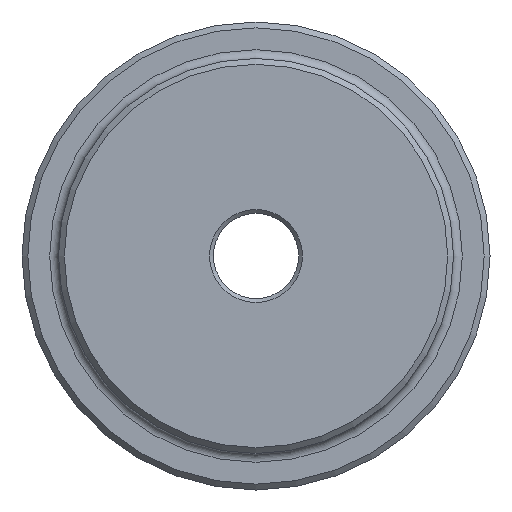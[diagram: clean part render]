
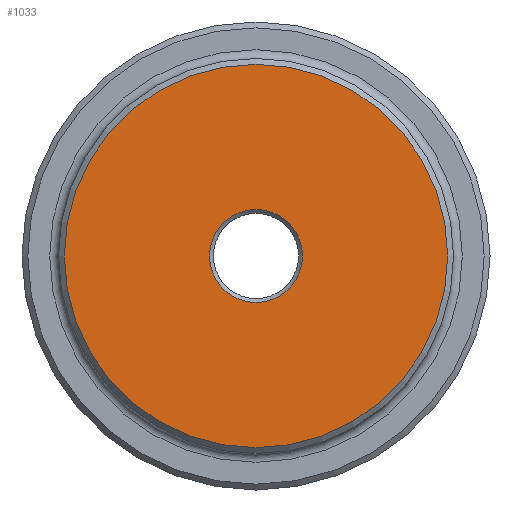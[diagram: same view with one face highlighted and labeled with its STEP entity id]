
A CAD part, left-side view. The second image highlights one B-rep face of the part: STEP entity #1033.
In plain terms, the highlighted planar face has unit normal (-1, 0, 0).
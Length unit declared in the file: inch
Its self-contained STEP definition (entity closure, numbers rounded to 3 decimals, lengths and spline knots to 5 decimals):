
#25 = VERTEX_POINT ( 'NONE', #2278 ) ;
#26 = CIRCLE ( 'NONE', #122, 0.47765 ) ;
#46 = ORIENTED_EDGE ( 'NONE', *, *, #1827, .T. ) ;
#70 = DIRECTION ( 'NONE',  ( -1., 0., 0. ) ) ;
#96 = CARTESIAN_POINT ( 'NONE',  ( 0., 0., -0.47765 ) ) ;
#122 = AXIS2_PLACEMENT_3D ( 'NONE', #336, #806, #1373 ) ;
#269 = AXIS2_PLACEMENT_3D ( 'NONE', #1073, #699, #1748 ) ;
#310 = EDGE_CURVE ( 'NONE', #25, #25, #1693, .T. ) ;
#336 = CARTESIAN_POINT ( 'NONE',  ( 0., 0., 0. ) ) ;
#378 = AXIS2_PLACEMENT_3D ( 'NONE', #1128, #70, #2220 ) ;
#550 = PLANE ( 'NONE',  #269 ) ;
#699 = DIRECTION ( 'NONE',  ( 1., 0., 0. ) ) ;
#734 = VERTEX_POINT ( 'NONE', #96 ) ;
#806 = DIRECTION ( 'NONE',  ( 1., 0., 0. ) ) ;
#1033 = ADVANCED_FACE ( 'NONE', ( #2162, #1597 ), #550, .F. ) ;
#1073 = CARTESIAN_POINT ( 'NONE',  ( 0., 0., 0. ) ) ;
#1128 = CARTESIAN_POINT ( 'NONE',  ( 0., 0., 0. ) ) ;
#1373 = DIRECTION ( 'NONE',  ( 0., 0., -1. ) ) ;
#1499 = EDGE_LOOP ( 'NONE', ( #1726 ) ) ;
#1597 = FACE_OUTER_BOUND ( 'NONE', #1499, .T. ) ;
#1693 = CIRCLE ( 'NONE', #378, 1.97 ) ;
#1726 = ORIENTED_EDGE ( 'NONE', *, *, #310, .T. ) ;
#1748 = DIRECTION ( 'NONE',  ( 0., 0., -1. ) ) ;
#1827 = EDGE_CURVE ( 'NONE', #734, #734, #26, .T. ) ;
#2150 = EDGE_LOOP ( 'NONE', ( #46 ) ) ;
#2162 = FACE_BOUND ( 'NONE', #2150, .T. ) ;
#2220 = DIRECTION ( 'NONE',  ( 0., 0., -1. ) ) ;
#2278 = CARTESIAN_POINT ( 'NONE',  ( 0., 0., -1.97 ) ) ;
